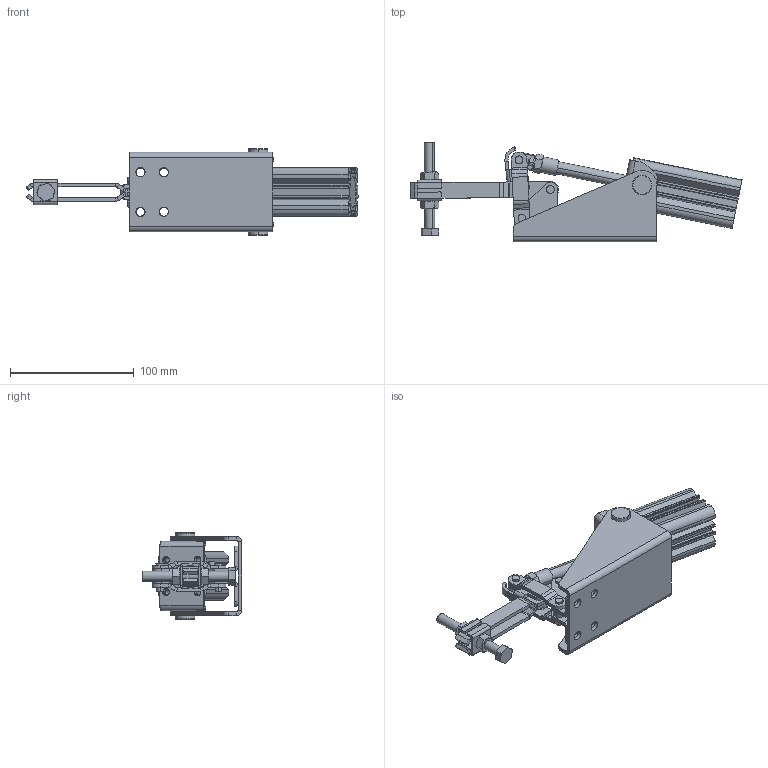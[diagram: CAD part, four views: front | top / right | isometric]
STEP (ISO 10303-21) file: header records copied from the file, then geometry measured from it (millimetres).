
FILE_DESCRIPTION (( 'STEP AP203' ), '1' );
FILE_NAME ('KF-017 DBL P.STEP', '2016-12-15T10:55:27', ( 'Ricardo' ), ( '' ), 'SwSTEP 2.0', 'SolidWorks 2015', '' );
FILE_SCHEMA (( 'CONFIG_CONTROL_DESIGN' ));
Length unit declared in the file: millimetre
Products named in the file (23): 03.14001_Direita; 501-012; 06.50002; 03.14001_Esquerda; 1 PC 21287; 11.50002; 04.20001; 2 PC 21287; 12.50003; 3 PC 21287; 14.10001; 15.10053; 01.10008; 2800250500XP_avan㌢do; 15.10054; 04.10001; 02.12001_Direita; KF-017 DBL P; 15.20007; 05.20017; 02.12001_Esquerda; 16.20068; 06.50001
Assembly tree (29 placements, depth 3):
  KF-017 DBL P
    01.10008  x2
    02.12001_Direita
    02.12001_Esquerda
    03.14001_Direita
    03.14001_Esquerda
    04.20001
    04.10001
    05.20017
    06.50001  x2
    06.50002  x2
    11.50002  x2
    12.50003
    14.10001  x2
    15.10053
    15.10054
    15.20007
    16.20068  x2
    501-012  x2
    2800250500XP_avan㌢do
      1 PC 21287
      2 PC 21287
      3 PC 21287
Bounding box: 268.09 x 80.46 x 70 mm (x, y, z)
Volume: 176724.1 mm3; surface area: 115414.9 mm2
Topology: 28 solids, 28 shells, 817 faces, 1926 edges, 1187 vertices
Faces by surface type: plane 381, cylinder 353, cone 80, torus 2, sphere 1
Entity records: 22260 total; most frequent: DIRECTION 3605, CARTESIAN_POINT 3503, ORIENTED_EDGE 3174, EDGE_CURVE 1587, AXIS2_PLACEMENT_3D 1357, VERTEX_POINT 987, LINE 891, VECTOR 891
